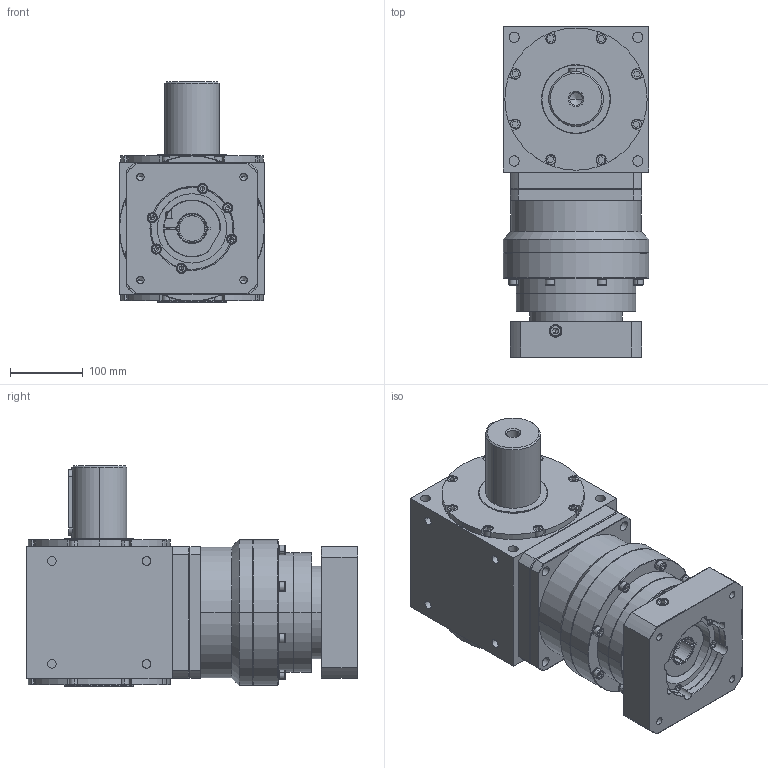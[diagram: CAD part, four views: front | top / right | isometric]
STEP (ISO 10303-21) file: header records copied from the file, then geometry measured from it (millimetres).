
FILE_DESCRIPTION (( 'STEP AP203' ), '1' );
FILE_NAME ('AAW200AS-L2-P 35-114.3-200-M12.STEP', '2024-12-17T09:20:33', ( '' ), ( '' ), 'SwSTEP 2.0', 'SolidWorks 2021', '' );
FILE_SCHEMA (( 'CONFIG_CONTROL_DESIGN' ));
Length unit declared in the file: millimetre
Products named in the file (3): AAW200AS-P; KS180L2-114.3-35-83-M12-200俋倛芞; AAW200AS-L2-P 35-114.3-200-M12
Assembly tree (2 placements, depth 2):
  AAW200AS-L2-P 35-114.3-200-M12
    AAW200AS-P
    KS180L2-114.3-35-83-M12-200俋倛芞
Bounding box: 200 x 454.5 x 302 mm (x, y, z)
Volume: 15329260.3 mm3; surface area: 823632.2 mm2
Topology: 45 solids, 45 shells, 1542 faces, 3685 edges, 2304 vertices
Faces by surface type: plane 723, cylinder 569, cone 202, bspline 48
Entity records: 45552 total; most frequent: CARTESIAN_POINT 9211, DIRECTION 7911, ORIENTED_EDGE 7226, EDGE_CURVE 3613, AXIS2_PLACEMENT_3D 3022, VERTEX_POINT 2304, VECTOR 1867, LINE 1867
